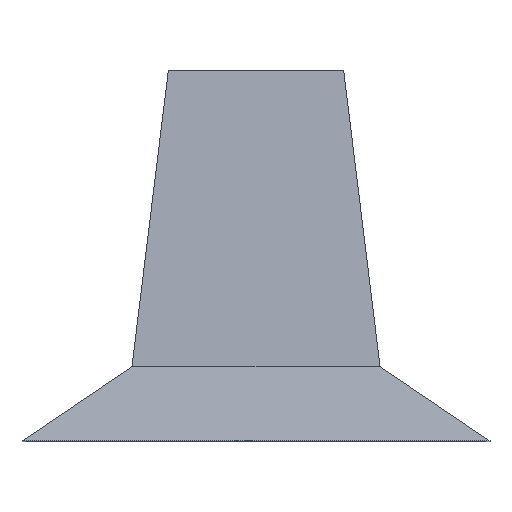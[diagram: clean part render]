
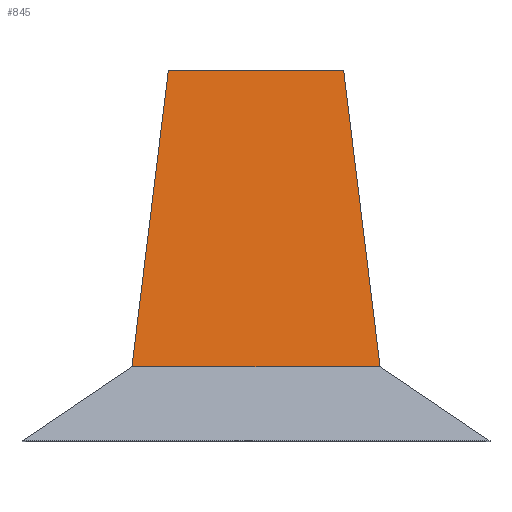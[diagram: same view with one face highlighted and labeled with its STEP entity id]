
A CAD part, top view. The second image highlights one B-rep face of the part: STEP entity #845.
In plain terms, the highlighted planar face has unit normal (0, 0.122, 0.993).
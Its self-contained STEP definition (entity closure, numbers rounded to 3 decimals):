
#3 = VERTEX_POINT ( 'NONE', #427 ) ;
#9 = CARTESIAN_POINT ( 'NONE',  ( 0., 0., 0. ) ) ;
#16 = VERTEX_POINT ( 'NONE', #435 ) ;
#21 = VECTOR ( 'NONE', #402, 1000. ) ;
#35 = DIRECTION ( 'NONE',  ( 1., 0., 0. ) ) ;
#60 = FACE_OUTER_BOUND ( 'NONE', #804, .T. ) ;
#177 = DIRECTION ( 'NONE',  ( 1., 0., 0. ) ) ;
#190 = ORIENTED_EDGE ( 'NONE', *, *, #399, .T. ) ;
#208 = EDGE_CURVE ( 'NONE', #16, #3, #604, .T. ) ;
#240 = CARTESIAN_POINT ( 'NONE',  ( 0., -22., 2.701 ) ) ;
#262 = ORIENTED_EDGE ( 'NONE', *, *, #489, .F. ) ;
#355 = VERTEX_POINT ( 'NONE', #384 ) ;
#367 = CARTESIAN_POINT ( 'NONE',  ( 12.81, 1.549, -0.19 ) ) ;
#374 = CARTESIAN_POINT ( 'NONE',  ( 15.701, -22., 2.701 ) ) ;
#384 = CARTESIAN_POINT ( 'NONE',  ( -2.701, -22., 2.701 ) ) ;
#399 = EDGE_CURVE ( 'NONE', #355, #899, #802, .T. ) ;
#402 = DIRECTION ( 'NONE',  ( 0.121, 0.985, -0.121 ) ) ;
#427 = CARTESIAN_POINT ( 'NONE',  ( 13., 0., 0. ) ) ;
#429 = DIRECTION ( 'NONE',  ( 0., 0.122, 0.993 ) ) ;
#435 = CARTESIAN_POINT ( 'NONE',  ( 0., 0., 0. ) ) ;
#437 = ORIENTED_EDGE ( 'NONE', *, *, #208, .F. ) ;
#452 = VECTOR ( 'NONE', #509, 1000. ) ;
#486 = ORIENTED_EDGE ( 'NONE', *, *, #918, .T. ) ;
#489 = EDGE_CURVE ( 'NONE', #355, #16, #822, .T. ) ;
#498 = LINE ( 'NONE', #367, #452 ) ;
#509 = DIRECTION ( 'NONE',  ( -0.121, 0.985, -0.121 ) ) ;
#523 = DIRECTION ( 'NONE',  ( 0., -0.993, 0.122 ) ) ;
#544 = CARTESIAN_POINT ( 'NONE',  ( 0., 0., 0. ) ) ;
#604 = LINE ( 'NONE', #544, #784 ) ;
#619 = AXIS2_PLACEMENT_3D ( 'NONE', #9, #429, #523 ) ;
#663 = PLANE ( 'NONE',  #619 ) ;
#762 = CARTESIAN_POINT ( 'NONE',  ( 0., 0., 0. ) ) ;
#781 = VECTOR ( 'NONE', #177, 1000. ) ;
#784 = VECTOR ( 'NONE', #35, 1000. ) ;
#802 = LINE ( 'NONE', #240, #781 ) ;
#804 = EDGE_LOOP ( 'NONE', ( #437, #262, #190, #486 ) ) ;
#822 = LINE ( 'NONE', #762, #21 ) ;
#845 = ADVANCED_FACE ( 'NONE', ( #60 ), #663, .T. ) ;
#899 = VERTEX_POINT ( 'NONE', #374 ) ;
#918 = EDGE_CURVE ( 'NONE', #899, #3, #498, .T. ) ;
